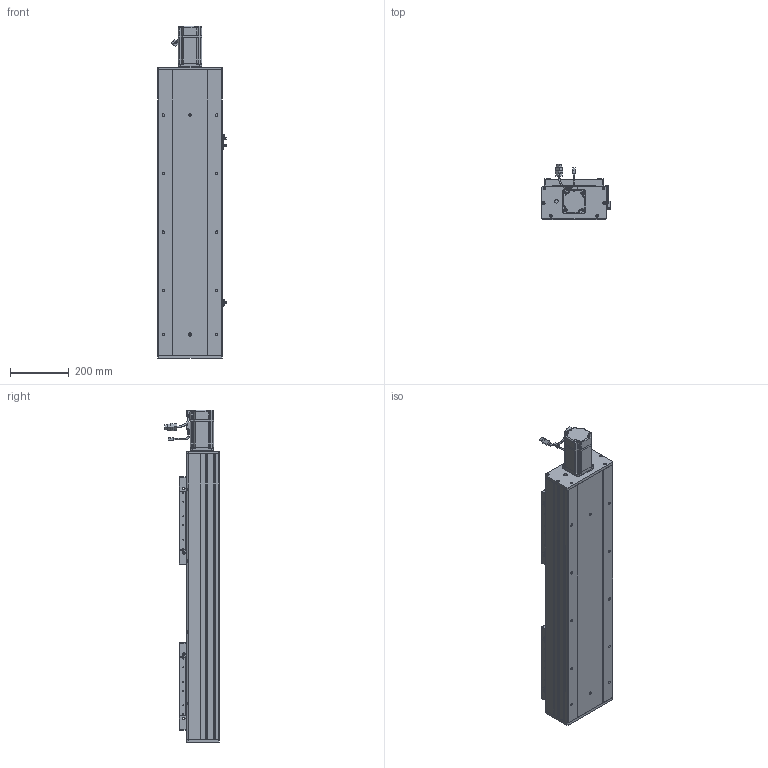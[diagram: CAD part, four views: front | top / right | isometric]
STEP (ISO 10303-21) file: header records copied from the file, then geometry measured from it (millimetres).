
FILE_DESCRIPTION (( 'STEP AP203' ), '1' );
FILE_NAME ('RY220F-L2525-300-MK.SLDASM_550.step', '2022-07-04T01:03:23', ( '' ), ( '' ), 'SwSTEP 2.0', 'SolidWorks 2016', '' );
FILE_SCHEMA (( 'CONFIG_CONTROL_DESIGN' ));
Length unit declared in the file: millimetre
Products named in the file (15): RY220F-L2525-300-MK.SLDASM_550; RY220F-祥凄詩湍-MK-300_550; RY220F臏賑釱25-32佪裝; 滅袉蝶18-24; 怢湛750W_ECMA-CX0807ES; RY220电机支撑座FK20（PCD90M6）; RY220F菁釱MK-300_550; RY220F-672覜茼んえ; 覜茼ん672; 滅袉蝶18-20; RY220F-奻裔啣-300_550; RY220F-詩湍揤踡輸; RY220F-滅鳥奻裔; RY220Fヶ裔啣; RY220F綴裔啣
Assembly tree (23 placements, depth 2):
  RY220F-L2525-300-MK.SLDASM_550
    RY220F菁釱MK-300_550
    RY220电机支撑座FK20（PCD90M6）
    RY220F-奻裔啣-300_550  x2
    怢湛750W_ECMA-CX0807ES
    RY220F臏賑釱25-32佪裝  x2
    RY220F-滅鳥奻裔  x2
    滅袉蝶18-20
    滅袉蝶18-24  x3
    RY220Fヶ裔啣
    RY220F綴裔啣
    RY220F-祥凄詩湍-MK-300_550
    RY220F-詩湍揤踡輸  x2
    覜茼ん672  x3
    RY220F-672覜茼んえ  x2
Bounding box: 233.7 x 187.27 x 1134.3 mm (x, y, z)
Volume: 11874128.7 mm3; surface area: 2855100.1 mm2
Topology: 24 solids, 24 shells, 2686 faces, 7370 edges, 4580 vertices
Faces by surface type: cylinder 1206, plane 1030, cone 387, bspline 37, sphere 16, torus 10
Entity records: 66870 total; most frequent: CARTESIAN_POINT 18144, ORIENTED_EDGE 9898, DIRECTION 9554, EDGE_CURVE 4949, AXIS2_PLACEMENT_3D 3383, VERTEX_POINT 3220, LINE 2788, VECTOR 2788
